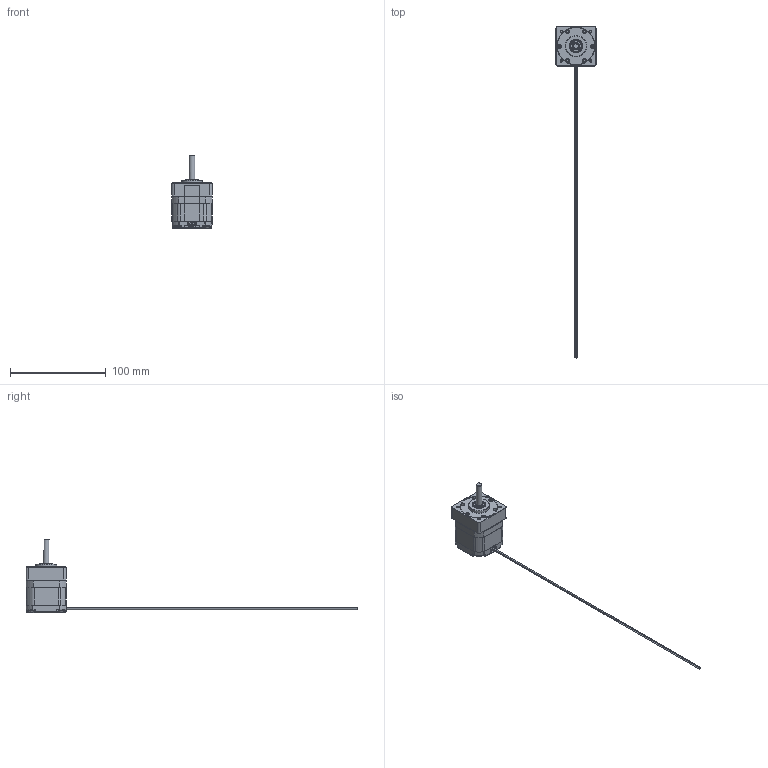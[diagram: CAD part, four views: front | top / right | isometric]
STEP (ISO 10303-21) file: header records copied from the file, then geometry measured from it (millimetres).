
FILE_DESCRIPTION(/* description */ ('','CAx-IF Rec.Pracs.---Representation and Presentation of Product Manufacturing Information (PMI)---3.8---2014-02-18'),/* implementation_level */ '2;1');
FILE_NAME(/* name */ 'C:\Users\hpham\Desktop\2018 Project\3D Models-Web\3D Models - 4418 Series\4418S\4418S-XX+069-094.stp',/* time_stamp */ '2018-04-06T09:37:06-07:00',/* author */ ('hpham'),/* organization */ (''),/* preprocessor_version */ 'ST-DEVELOPER v16.1',/* originating_system */ 'Autodesk Inventor 2016',/* authorisation */ '');
FILE_SCHEMA (('AP242_MANAGED_MODEL_BASED_3D_ENGINEERING_MIM_LF { 1 0 10303 442 1 1 4 }'));
Length unit declared in the file: inch
Products named in the file (1): 4418S-XX+069-094
Bounding box: 42.16 x 347.45 x 76.93 mm (x, y, z)
Volume: 22676 mm3; surface area: 29188.9 mm2
Topology: 7 solids, 7 shells, 619 faces, 1533 edges, 939 vertices
Faces by surface type: plane 271, cylinder 184, torus 70, cone 48, bspline 28, sphere 18
Full cylindrical faces by diameter (mm): 0.965 x4, 1.194 x1, 2.2 x6, 2.21 x8, 2.464 x6, 2.845 x2, 2.997 x2, 3.302 x6, 3.404 x4, 4 x6, 4.991 x1, 5.001 x1, 5.5 x2, 5.563 x2, 5.997 x1, 6 x1, 7.6 x1, 7.81 x1, 7.823 x1, 7.864 x3, 8 x1, 8.141 x1, 8.2 x1, 11 x1, 11.136 x3, 12.103 x1, 13 x1, 13.208 x1, 15.999 x1, 17.297 x1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
Entity records: 18506 total; most frequent: CARTESIAN_POINT 4235, DIRECTION 2941, ORIENTED_EDGE 2676, EDGE_CURVE 1338, AXIS2_PLACEMENT_3D 1198, VERTEX_POINT 868, EDGE_LOOP 804, ADVANCED_FACE 619
